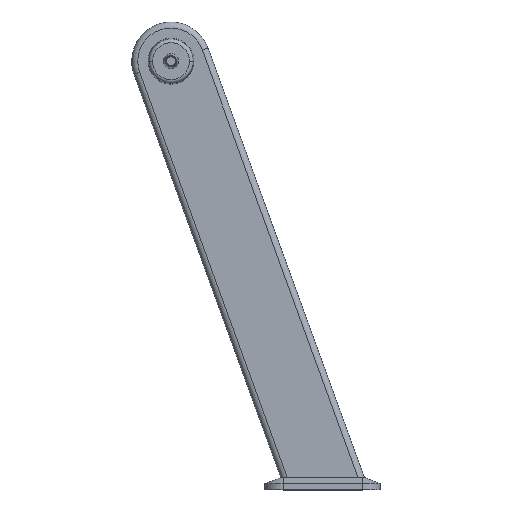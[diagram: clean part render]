
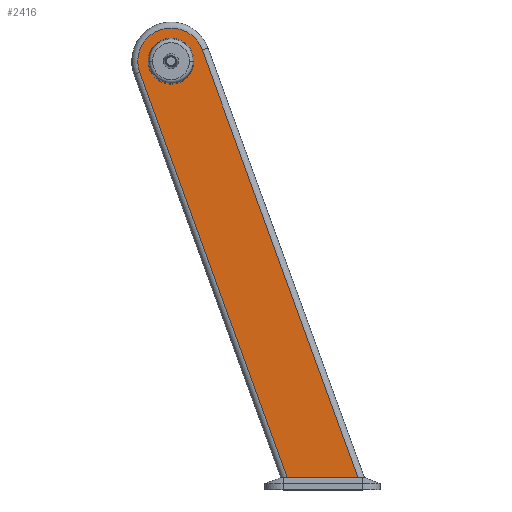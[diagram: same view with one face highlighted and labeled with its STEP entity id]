
A CAD part, top view. The second image highlights one B-rep face of the part: STEP entity #2416.
In plain terms, the highlighted planar face has unit normal (0, 0, 1).
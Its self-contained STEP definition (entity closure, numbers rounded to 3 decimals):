
#26 = AXIS2_PLACEMENT_3D ( 'NONE', #1886, #279, #2121 ) ;
#32 = VERTEX_POINT ( 'NONE', #2926 ) ;
#110 = LINE ( 'NONE', #1393, #190 ) ;
#190 = VECTOR ( 'NONE', #3084, 1000. ) ;
#196 = DIRECTION ( 'NONE',  ( 0., 0., 1. ) ) ;
#279 = DIRECTION ( 'NONE',  ( 0., 0., 1. ) ) ;
#283 = DIRECTION ( 'NONE',  ( 1., 0., 0. ) ) ;
#299 = CARTESIAN_POINT ( 'NONE',  ( 0., 0., 31.25 ) ) ;
#301 = CARTESIAN_POINT ( 'NONE',  ( 51.683, 18.811, 31.25 ) ) ;
#386 = VERTEX_POINT ( 'NONE', #2142 ) ;
#403 = EDGE_CURVE ( 'NONE', #717, #1956, #2034, .T. ) ;
#504 = CIRCLE ( 'NONE', #2202, 55. ) ;
#554 = ORIENTED_EDGE ( 'NONE', *, *, #1203, .T. ) ;
#561 = DIRECTION ( 'NONE',  ( -0.342, 0.94, 0. ) ) ;
#717 = VERTEX_POINT ( 'NONE', #1507 ) ;
#740 = ORIENTED_EDGE ( 'NONE', *, *, #1244, .F. ) ;
#823 = DIRECTION ( 'NONE',  ( 1., 0., 0. ) ) ;
#830 = DIRECTION ( 'NONE',  ( 0.342, -0.94, 0. ) ) ;
#853 = CARTESIAN_POINT ( 'NONE',  ( 198.644, -706.58, 31.25 ) ) ;
#912 = EDGE_LOOP ( 'NONE', ( #1056, #740 ) ) ;
#921 = VECTOR ( 'NONE', #561, 1000. ) ;
#941 = AXIS2_PLACEMENT_3D ( 'NONE', #1125, #2846, #1390 ) ;
#1032 = VERTEX_POINT ( 'NONE', #2639 ) ;
#1056 = ORIENTED_EDGE ( 'NONE', *, *, #1315, .F. ) ;
#1125 = CARTESIAN_POINT ( 'NONE',  ( 0., 0., 31.25 ) ) ;
#1147 = CIRCLE ( 'NONE', #26, 38. ) ;
#1150 = CARTESIAN_POINT ( 'NONE',  ( 38., 0., 31.25 ) ) ;
#1203 = EDGE_CURVE ( 'NONE', #1032, #717, #504, .T. ) ;
#1244 = EDGE_CURVE ( 'NONE', #386, #1950, #1147, .T. ) ;
#1306 = EDGE_LOOP ( 'NONE', ( #2020, #554, #2969, #1631 ) ) ;
#1315 = EDGE_CURVE ( 'NONE', #1950, #386, #2803, .T. ) ;
#1390 = DIRECTION ( 'NONE',  ( 1., 0., 0. ) ) ;
#1393 = CARTESIAN_POINT ( 'NONE',  ( 0., -690., 31.25 ) ) ;
#1507 = CARTESIAN_POINT ( 'NONE',  ( -51.683, -18.811, 31.25 ) ) ;
#1614 = CARTESIAN_POINT ( 'NONE',  ( 0., 0., 31.25 ) ) ;
#1631 = ORIENTED_EDGE ( 'NONE', *, *, #2480, .T. ) ;
#1678 = CARTESIAN_POINT ( 'NONE',  ( 192.61, -690., 31.25 ) ) ;
#1713 = FACE_BOUND ( 'NONE', #912, .T. ) ;
#1886 = CARTESIAN_POINT ( 'NONE',  ( 0., 0., 31.25 ) ) ;
#1950 = VERTEX_POINT ( 'NONE', #1150 ) ;
#1956 = VERTEX_POINT ( 'NONE', #1678 ) ;
#2020 = ORIENTED_EDGE ( 'NONE', *, *, #2443, .T. ) ;
#2034 = LINE ( 'NONE', #853, #2743 ) ;
#2121 = DIRECTION ( 'NONE',  ( 1., 0., 0. ) ) ;
#2122 = PLANE ( 'NONE',  #2647 ) ;
#2142 = CARTESIAN_POINT ( 'NONE',  ( -38., 0., 31.25 ) ) ;
#2202 = AXIS2_PLACEMENT_3D ( 'NONE', #299, #196, #283 ) ;
#2362 = DIRECTION ( 'NONE',  ( 0., 0., 1. ) ) ;
#2416 = ADVANCED_FACE ( 'NONE', ( #2974, #1713 ), #2122, .T. ) ;
#2443 = EDGE_CURVE ( 'NONE', #32, #1032, #2900, .T. ) ;
#2480 = EDGE_CURVE ( 'NONE', #1956, #32, #110, .T. ) ;
#2639 = CARTESIAN_POINT ( 'NONE',  ( 51.683, 18.811, 31.25 ) ) ;
#2647 = AXIS2_PLACEMENT_3D ( 'NONE', #1614, #2362, #823 ) ;
#2743 = VECTOR ( 'NONE', #830, 1000. ) ;
#2803 = CIRCLE ( 'NONE', #941, 38. ) ;
#2846 = DIRECTION ( 'NONE',  ( 0., 0., 1. ) ) ;
#2900 = LINE ( 'NONE', #301, #921 ) ;
#2926 = CARTESIAN_POINT ( 'NONE',  ( 309.669, -690., 31.25 ) ) ;
#2969 = ORIENTED_EDGE ( 'NONE', *, *, #403, .T. ) ;
#2974 = FACE_OUTER_BOUND ( 'NONE', #1306, .T. ) ;
#3084 = DIRECTION ( 'NONE',  ( 1., 0., 0. ) ) ;
